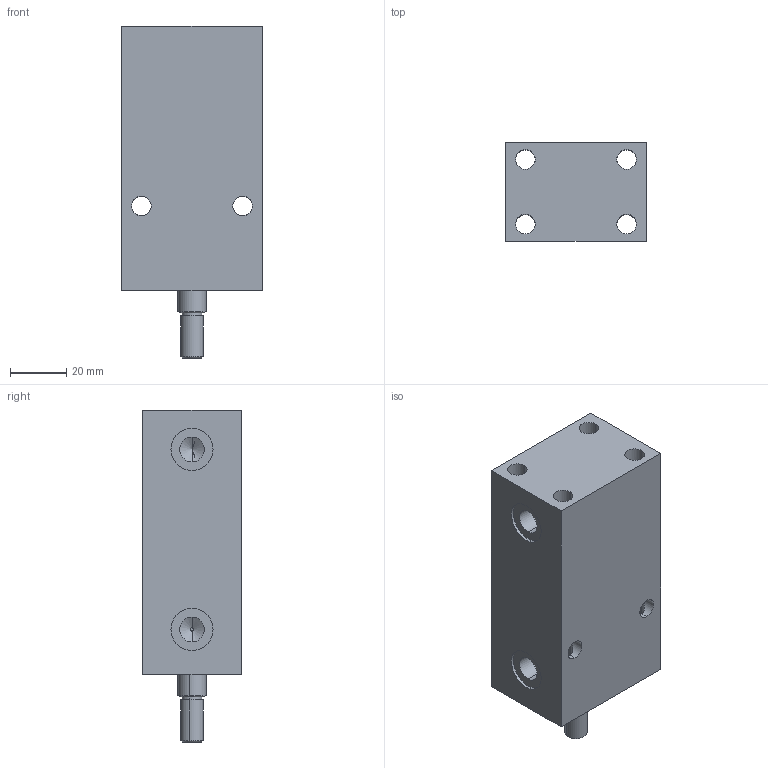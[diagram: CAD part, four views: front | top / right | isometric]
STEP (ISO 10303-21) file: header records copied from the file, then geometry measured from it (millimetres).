
FILE_DESCRIPTION (( 'STEP AP203' ), '1' );
FILE_NAME ('Block cylinder B01C-0050M.STEP', '2022-07-09T17:53:50', ( '' ), ( '' ), 'SwSTEP 2.0', 'SolidWorks 2017', '' );
FILE_SCHEMA (( 'CONFIG_CONTROL_DESIGN' ));
Length unit declared in the file: millimetre
Products named in the file (3): Piston_0050M; Block cylinder B01C-0050M; Body_0050M
Assembly tree (2 placements, depth 2):
  Block cylinder B01C-0050M
    Body_0050M
    Piston_0050M
Bounding box: 50 x 35 x 118 mm (x, y, z)
Volume: 149542.2 mm3; surface area: 34376.3 mm2
Topology: 2 solids, 2 shells, 372 faces, 1010 edges, 661 vertices
Faces by surface type: bspline 179, plane 139, cylinder 46, cone 8
Entity records: 19147 total; most frequent: CARTESIAN_POINT 10725, ORIENTED_EDGE 2016, DIRECTION 1076, EDGE_CURVE 1008, VERTEX_POINT 661, LINE 552, VECTOR 552, EDGE_LOOP 415
